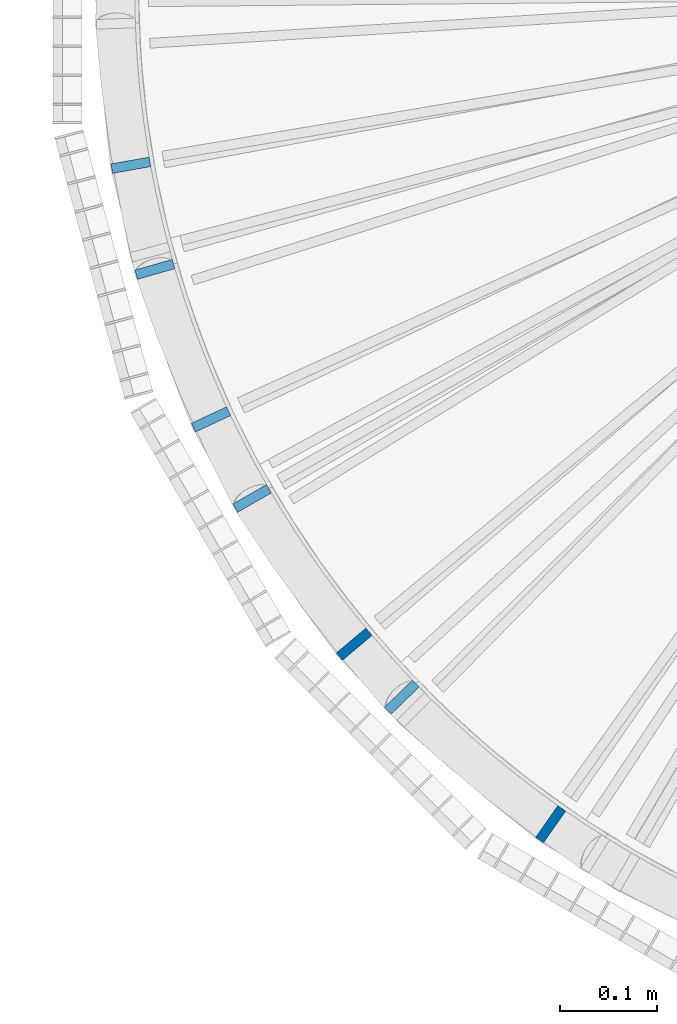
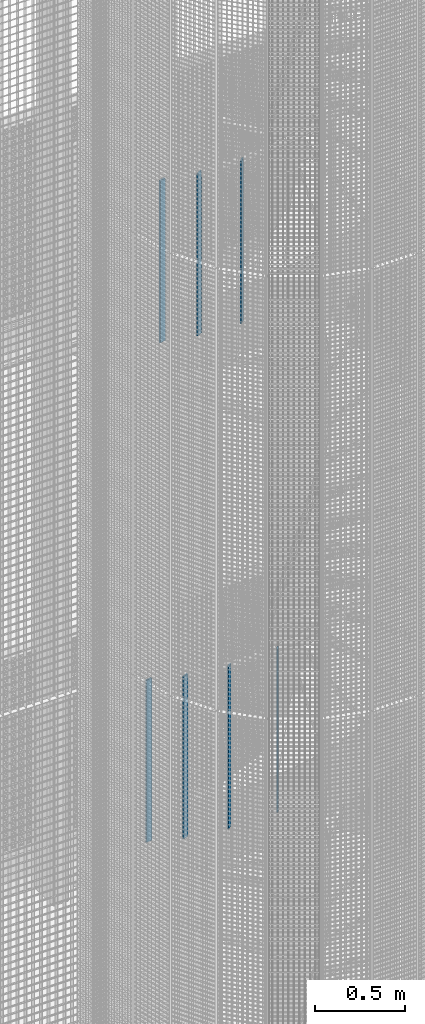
# One storey, part 1 of 1183: 7 columns, 7 elements without a shape of their own.
"""IFC2X3 building model written with IfcOpenShell, lengths in millimetres."""

import ifcopenshell
import ifcopenshell.guid

model = None  # the IFC model being written
_history = None  # IfcOwnerHistory: only IFC2X3 demands one
_inside = {}  # id of a spatial element -> (the spatial element, [elements in it])
_under = {}  # id of a project, library or spatial element -> (it, [spatial elements below it])
_declared = {}  # id of a project -> (the project, [libraries it declares])
_typed = {}  # id of a type object -> (the type object, [elements of that type])
_made_of = {}  # id of a material, layer set ... -> (it, [elements and type objects made of it])


def new_model(schema):
    """Start an empty IFC model of exactly this schema.

    Asked for "IFC4X3", IfcOpenShell would pick the latest addendum, in which some entities
    have other attributes; the version numbers below select the first issue.
    IFC2X3 requires an IfcOwnerHistory on every rooted entity: one is made here for all.
    """
    global model, _history
    if schema == "IFC4X3":
        model = ifcopenshell.file(schema_version=(4, 3, 0, 0))
    else:
        model = ifcopenshell.file(schema=schema)
    _inside.clear()
    _under.clear()
    _declared.clear()
    _typed.clear()
    _made_of.clear()
    _history = None
    if model.schema == "IFC2X3":
        org = make("IfcOrganization", Name="unknown")
        user = make(
            "IfcPersonAndOrganization",
            ThePerson=make("IfcPerson", FamilyName="unknown"),
            TheOrganization=org,
        )
        app = make(
            "IfcApplication",
            ApplicationDeveloper=org,
            Version="unknown",
            ApplicationFullName="unknown",
            ApplicationIdentifier="unknown",
        )
        _history = make(
            "IfcOwnerHistory",
            OwningUser=user,
            OwningApplication=app,
            ChangeAction="ADDED",
            CreationDate=0,
        )
    return model


def make(cls, **values):
    """One entity of the class cls with the attributes given. An attribute that is None is left unset."""
    return model.create_entity(
        cls, **{name: value for name, value in values.items() if value is not None}
    )


def rooted(cls, **values):
    """An entity with a GlobalId (a new one), such as an element, a storey or a relation."""
    return make(cls, GlobalId=ifcopenshell.guid.new(), OwnerHistory=_history, **values)


def si_unit(unit_type, name, prefix=None):
    """IfcSIUnit, for example si_unit("LENGTHUNIT", "METRE", prefix="MILLI")."""
    return make("IfcSIUnit", UnitType=unit_type, Prefix=prefix, Name=name)


def assignment(units):
    """IfcUnitAssignment: the units of a project."""
    return None if units is None else make("IfcUnitAssignment", Units=units)


def point(xyz):
    """IfcCartesianPoint."""
    return None if xyz is None else make("IfcCartesianPoint", Coordinates=xyz)


def direction(xyz):
    """IfcDirection."""
    return None if xyz is None else make("IfcDirection", DirectionRatios=xyz)


def frame(location, z_axis=None, x_axis=None):
    """IfcAxis2Placement3D, a coordinate frame: its origin and axes. An axis left out is left unset."""
    return make(
        "IfcAxis2Placement3D",
        Location=point(location),
        Axis=direction(z_axis),
        RefDirection=direction(x_axis),
    )


def frame_2d(location, x_axis=None):
    """IfcAxis2Placement2D, a coordinate frame in the plane: its origin and x axis."""
    return make(
        "IfcAxis2Placement2D", Location=point(location), RefDirection=direction(x_axis)
    )


def origin_with_axes():
    """The frame at (0, 0, 0) with the z axis (0, 0, 1) and the x axis (1, 0, 0) written out."""
    return frame((0.0, 0.0, 0.0), z_axis=(0.0, 0.0, 1.0), x_axis=(1.0, 0.0, 0.0))


def origin_2d_with_axis():
    """The frame at (0, 0) in the plane with the x axis (1, 0) written out."""
    return frame_2d((0.0, 0.0), x_axis=(1.0, 0.0))


def place(relative_to, where):
    """IfcLocalPlacement: puts the frame where relative to a parent placement (None: the world)."""
    return make(
        "IfcLocalPlacement", PlacementRelTo=relative_to, RelativePlacement=where
    )


def context(
    kind, dimensions, precision=None, world=None, true_north=None, identifier=None
):
    """IfcGeometricRepresentationContext, for example the 3D "Model" context."""
    return make(
        "IfcGeometricRepresentationContext",
        ContextIdentifier=identifier,
        ContextType=kind,
        CoordinateSpaceDimension=dimensions,
        Precision=precision,
        WorldCoordinateSystem=world,
        TrueNorth=true_north,
    )


def subcontext(parent, identifier, kind, view, scale=None):
    """IfcGeometricRepresentationSubContext, for example "Body" below "Model"."""
    return make(
        "IfcGeometricRepresentationSubContext",
        ContextIdentifier=identifier,
        ContextType=kind,
        ParentContext=parent,
        TargetScale=scale,
        TargetView=view,
    )


def project(units=None, contexts=None):
    """IfcProject with its units and contexts."""
    return rooted(
        "IfcProject",
        Name="project",
        RepresentationContexts=contexts,
        UnitsInContext=assignment(units),
    )


def spatial(cls, under=None, at=None, **own):
    """A site, building, storey or space (cls), placed at a placement, below another one or the project."""
    s = rooted(cls, ObjectPlacement=at, **own)
    if under is not None:
        _under.setdefault(under.id(), (under, []))[1].append(s)
    return s


def profile(cls, at=None, kind="AREA", **sizes):
    """A parametric profile (cls). Its sizes go by their IFC names, for example OverallWidth=200.0."""
    return make(cls, ProfileType=kind, Position=at, **sizes)


def rectangle(**sizes):
    """IfcRectangleProfileDef."""
    return profile("IfcRectangleProfileDef", **sizes)


def extrude(swept, where, along, depth):
    """IfcExtrudedAreaSolid: the profile swept, set in the frame where, extruded along a direction by depth."""
    return make(
        "IfcExtrudedAreaSolid",
        SweptArea=swept,
        Position=where,
        ExtrudedDirection=direction(along),
        Depth=depth,
    )


def shape(context_of_items, identifier, shape_type, items):
    """IfcShapeRepresentation: the items that make up one representation, for example the "Body"."""
    return make(
        "IfcShapeRepresentation",
        ContextOfItems=context_of_items,
        RepresentationIdentifier=identifier,
        RepresentationType=shape_type,
        Items=items,
    )


def material(Name=None, Category=None):
    """IfcMaterial."""
    return make("IfcMaterial", Name=Name, Category=Category)


def made_of(thing, what):
    """Note that an element or type object is made of a material, layer set ...; save() writes the relation."""
    if what is not None:
        _made_of.setdefault(what.id(), (what, []))[1].append(thing)
    return thing


def type_object(cls, material=None, **own):
    """A type object (cls), such as IfcWallType, which elements share."""
    return made_of(rooted(cls, **own), material)


def element(
    cls,
    number,
    at=None,
    inside=None,
    cuts=None,
    type_object=None,
    material=None,
    context=None,
    identifier="Body",
    shape_type=None,
    held_by="IfcProductDefinitionShape",
    body=None,
    shapes=None,
    **own,
):
    """One element of the class cls, such as IfcWall. Its Tag is "e" and its number.

    at: its placement. inside: the storey or other place that contains it. cuts: it is an
    opening in that element (IfcRelVoidsElement). A single representation is given by context,
    identifier, shape_type and body (its items); several are given by shapes. held_by: the class
    of the entity that holds the representations. save() writes the other relations.
    """
    e = rooted(cls, Tag="e%d" % number, ObjectPlacement=at, **own)
    if body is not None:
        shapes = [shape(context, identifier, shape_type, body)]
    if shapes is not None:
        e.Representation = make(held_by, Representations=shapes)
    if inside is not None:
        _inside.setdefault(inside.id(), (inside, []))[1].append(e)
    if cuts is not None:
        rooted(
            "IfcRelVoidsElement", RelatingBuildingElement=cuts, RelatedOpeningElement=e
        )
    if type_object is not None:
        _typed.setdefault(type_object.id(), (type_object, []))[1].append(e)
    return made_of(e, material)


def aggregate(whole, parts):
    """IfcRelAggregates: a whole, such as a stair, and the parts it consists of."""
    return rooted("IfcRelAggregates", RelatingObject=whole, RelatedObjects=parts)


def save(model, path):
    """Write the relations noted so far, then the file.

    IfcRelAggregates (storeys below a building ...), IfcRelContainedInSpatialStructure (elements
    in a storey), IfcRelDefinesByType, IfcRelAssociatesMaterial and IfcRelDeclares: one each for
    every whole, place, type object, material and project.
    """
    for whole, parts in _under.values():
        aggregate(whole, parts)
    for where, things in _inside.values():
        rooted(
            "IfcRelContainedInSpatialStructure",
            RelatedElements=things,
            RelatingStructure=where,
        )
    for kind, things in _typed.values():
        rooted("IfcRelDefinesByType", RelatedObjects=things, RelatingType=kind)
    for what, things in _made_of.values():
        rooted("IfcRelAssociatesMaterial", RelatedObjects=things, RelatingMaterial=what)
    for by, libraries in _declared.values():
        rooted("IfcRelDeclares", RelatingContext=by, RelatedDefinitions=libraries)
    model.write(path)


model = new_model("IFC2X3")

# Units and contexts
model_context = context("Model", 3, precision=1e-05, world=origin_with_axes())
body_context = subcontext(model_context, "Body", "Model", "MODEL_VIEW")
ifc_project = project(units=[si_unit("LENGTHUNIT", "METRE", prefix="MILLI"), si_unit("AREAUNIT", "SQUARE_METRE"), si_unit("VOLUMEUNIT", "CUBIC_METRE"), si_unit("MASSUNIT", "GRAM", prefix="KILO"), si_unit("TIMEUNIT", "SECOND"), si_unit("PLANEANGLEUNIT", "RADIAN"), si_unit("SOLIDANGLEUNIT", "STERADIAN"), si_unit("THERMODYNAMICTEMPERATUREUNIT", "DEGREE_CELSIUS"), si_unit("LUMINOUSINTENSITYUNIT", "LUMEN")], contexts=[model_context])

# Site, building, storey
site_placement = place(None, origin_with_axes())
site = spatial("IfcSite", under=ifc_project, at=site_placement, Name="Undefined", CompositionType="ELEMENT")
building_placement = place(site_placement, origin_with_axes())
building = spatial("IfcBuilding", under=site, at=building_placement, Name="Undefined", CompositionType="ELEMENT")
storey_placement = place(building_placement, origin_with_axes())
storey = spatial("IfcBuildingStorey", under=building, at=storey_placement, Name="Undefined", CompositionType="ELEMENT", Elevation=0.0)

# Assembly, column
assembly_1_placement = place(storey_placement, origin_with_axes())
assembly_1 = element("IfcElementAssembly", 1, at=assembly_1_placement, inside=storey, Name="MONTANT", AssemblyPlace="NOTDEFINED", PredefinedType="NOTDEFINED")
ifc_material = material(Name="STEEL/S235JR")
column_type = type_object("IfcColumnType", Name="PL10*40", PredefinedType="NOTDEFINED")
column_1_placement = place(assembly_1_placement, frame((-912.790775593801, -527.00000000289, 14472.6), z_axis=(0.0, 0.0, 1.0), x_axis=(0.866025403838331, 0.499999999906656, 0.0)))
column_1 = element("IfcColumn", 2, at=column_1_placement, type_object=column_type, material=ifc_material, Name="MONTANT", context=body_context, shape_type="SweptSolid", body=[
    extrude(rectangle(XDim=10.0, YDim=40.0, at=origin_2d_with_axis()), frame((0.0, 0.0, 1100.0), z_axis=(0.0, 0.0, -1.0), x_axis=(0.0, 1.0, 0.0)), (0.0, 0.0, 1.0), 1100.0),
])
aggregate(assembly_1, [column_1])

assembly_2_placement = place(storey_placement, origin_with_axes())
assembly_2 = element("IfcElementAssembly", 3, at=assembly_2_placement, inside=storey, Name="MONTANT", AssemblyPlace="NOTDEFINED", PredefinedType="NOTDEFINED")
column_2_placement = place(assembly_2_placement, frame((-758.184149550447, -732.169922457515, 14629.12), z_axis=(0.0, 0.0, 1.0), x_axis=(0.719339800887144, 0.694658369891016, 0.0)))
column_2 = element("IfcColumn", 4, at=column_2_placement, type_object=column_type, material=ifc_material, Name="MONTANT", context=body_context, shape_type="SweptSolid", body=[
    extrude(rectangle(XDim=10.0, YDim=40.0, at=origin_2d_with_axis()), frame((0.0, 0.0, 1100.0), z_axis=(0.0, 0.0, -1.0), x_axis=(0.0, 1.0, 0.0)), (0.0, 0.0, 1.0), 1100.0),
])
aggregate(assembly_2, [column_2])

assembly_3_placement = place(storey_placement, origin_with_axes())
assembly_3 = element("IfcElementAssembly", 5, at=assembly_3_placement, inside=storey, Name="MONTANT", AssemblyPlace="NOTDEFINED", PredefinedType="NOTDEFINED")
column_3_placement = place(assembly_3_placement, frame((-1013.16982752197, -290.521773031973, 14316.08), z_axis=(0.0, 0.0, 1.0), x_axis=(0.961261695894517, 0.275637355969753, 0.0)))
column_3 = element("IfcColumn", 6, at=column_3_placement, type_object=column_type, material=ifc_material, Name="MONTANT", context=body_context, shape_type="SweptSolid", body=[
    extrude(rectangle(XDim=10.0, YDim=40.0, at=origin_2d_with_axis()), frame((0.0, 0.0, 1100.0), z_axis=(0.0, 0.0, -1.0), x_axis=(0.0, 1.0, 0.0)), (0.0, 0.0, 1.0), 1100.0),
])
aggregate(assembly_3, [column_3])

assembly_4_placement = place(storey_placement, origin_with_axes())
assembly_4 = element("IfcElementAssembly", 7, at=assembly_4_placement, inside=storey, Name="MONTANT", AssemblyPlace="NOTDEFINED", PredefinedType="NOTDEFINED")
column_4_placement = place(assembly_4_placement, frame((-1037.98737168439, -183.025179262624, 10872.6), z_axis=(0.0, 0.0, 1.0), x_axis=(0.984807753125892, 0.173648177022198, 0.0)))
column_4 = element("IfcColumn", 8, at=column_4_placement, type_object=column_type, material=ifc_material, Name="MONTANT", context=body_context, shape_type="SweptSolid", body=[
    extrude(rectangle(XDim=10.0, YDim=40.0, at=origin_2d_with_axis()), frame((0.0, 0.0, 1100.0), z_axis=(0.0, 0.0, -1.0), x_axis=(0.0, 1.0, 0.0)), (0.0, 0.0, 1.0), 1100.0),
])
aggregate(assembly_4, [column_4])

assembly_5_placement = place(storey_placement, origin_with_axes())
assembly_5 = element("IfcElementAssembly", 9, at=assembly_5_placement, inside=storey, Name="MONTANT", AssemblyPlace="NOTDEFINED", PredefinedType="NOTDEFINED")
column_5_placement = place(assembly_5_placement, frame((-955.248407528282, -445.439647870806, 11029.12), z_axis=(0.0, 0.0, 1.0), x_axis=(0.906307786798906, 0.422618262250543, 1.9012441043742e-10)))
column_5 = element("IfcColumn", 10, at=column_5_placement, type_object=column_type, material=ifc_material, Name="MONTANT", context=body_context, shape_type="SweptSolid", body=[
    extrude(rectangle(XDim=10.0, YDim=40.0, at=origin_2d_with_axis()), frame((0.0, 0.0, 1100.0), z_axis=(0.0, 0.0, -1.0), x_axis=(0.0, 1.0, 0.0)), (0.0, 0.0, 1.0), 1100.0),
])
aggregate(assembly_5, [column_5])

assembly_6_placement = place(storey_placement, origin_with_axes())
assembly_6 = element("IfcElementAssembly", 11, at=assembly_6_placement, inside=storey, Name="MONTANT", AssemblyPlace="NOTDEFINED", PredefinedType="NOTDEFINED")
column_6_placement = place(assembly_6_placement, frame((-604.549563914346, -863.386254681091, 11342.16), z_axis=(0.0, 0.0, 1.0), x_axis=(0.573576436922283, 0.819152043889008, 0.0)))
column_6 = element("IfcColumn", 12, at=column_6_placement, type_object=column_type, material=ifc_material, Name="MONTANT", context=body_context, shape_type="SweptSolid", body=[
    extrude(rectangle(XDim=10.0, YDim=40.0, at=origin_2d_with_axis()), frame((0.0, 0.0, 1100.0), z_axis=(0.0, 0.0, -1.0), x_axis=(0.0, 1.0, 0.0)), (0.0, 0.0, 1.0), 1100.0),
])
aggregate(assembly_6, [column_6])

assembly_7_placement = place(storey_placement, origin_with_axes())
assembly_7 = element("IfcElementAssembly", 13, at=assembly_7_placement, inside=storey, Name="MONTANT", AssemblyPlace="NOTDEFINED", PredefinedType="NOTDEFINED")
column_7_placement = place(assembly_7_placement, frame((-807.410843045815, -677.498140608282, 11185.64), z_axis=(0.0, 0.0, 1.0), x_axis=(0.766044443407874, 0.642787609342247, 0.0)))
column_7 = element("IfcColumn", 14, at=column_7_placement, type_object=column_type, material=ifc_material, Name="MONTANT", context=body_context, shape_type="SweptSolid", body=[
    extrude(rectangle(XDim=10.0, YDim=40.0, at=origin_2d_with_axis()), frame((0.0, 0.0, 1100.0), z_axis=(0.0, 0.0, -1.0), x_axis=(0.0, 1.0, 0.0)), (0.0, 0.0, 1.0), 1100.0),
])
aggregate(assembly_7, [column_7])

save(model, "model.ifc")
